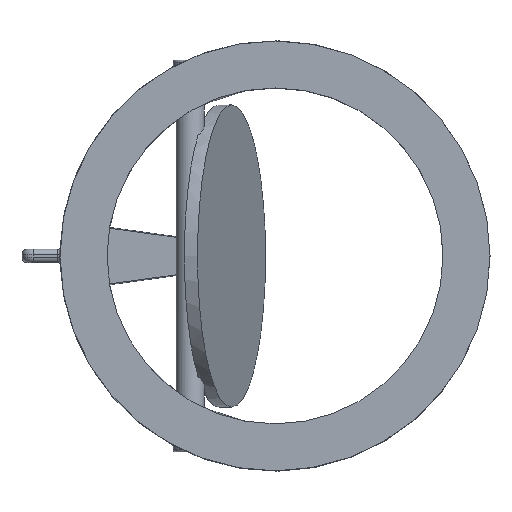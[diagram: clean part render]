
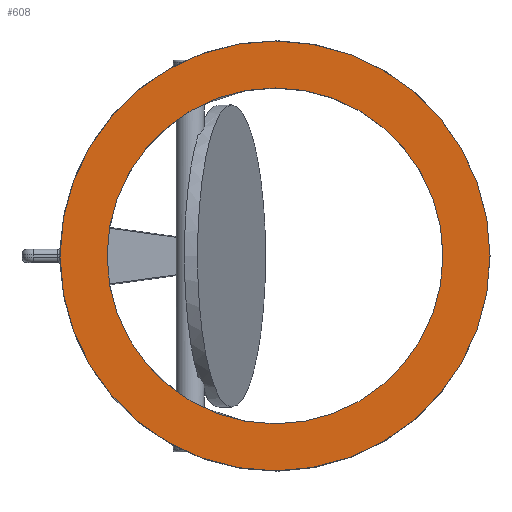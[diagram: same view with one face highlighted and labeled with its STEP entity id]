
A CAD part, top view. The second image highlights one B-rep face of the part: STEP entity #608.
In plain terms, the highlighted planar face has unit normal (0, 0, 1).
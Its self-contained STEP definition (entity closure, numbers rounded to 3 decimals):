
#608 = ADVANCED_FACE( '', ( #1339, #1340 ), #1341, .F. );
#1339 = FACE_OUTER_BOUND( '', #8625, .T. );
#1340 = FACE_BOUND( '', #8626, .T. );
#1341 = PLANE( '', #8627 );
#8625 = EDGE_LOOP( '', ( #14077, #14078 ) );
#8626 = EDGE_LOOP( '', ( #14079 ) );
#8627 = AXIS2_PLACEMENT_3D( '', #14080, #14081, #14082 );
#14077 = ORIENTED_EDGE( '', *, *, #15141, .F. );
#14078 = ORIENTED_EDGE( '', *, *, #15175, .F. );
#14079 = ORIENTED_EDGE( '', *, *, #14796, .F. );
#14080 = CARTESIAN_POINT( '', ( 0., 0., 57. ) );
#14081 = DIRECTION( '', ( 0., 0., -1. ) );
#14082 = DIRECTION( '', ( -1., 0., 0. ) );
#14796 = EDGE_CURVE( '', #15753, #15753, #15754, .T. );
#15141 = EDGE_CURVE( '', #16252, #16286, #16290, .T. );
#15175 = EDGE_CURVE( '', #16286, #16252, #16337, .T. );
#15753 = VERTEX_POINT( '', #18915 );
#15754 = CIRCLE( '', #18916, 150. );
#16252 = VERTEX_POINT( '', #22526 );
#16286 = VERTEX_POINT( '', #22677 );
#16290 = CIRCLE( '', #22681, 192. );
#16337 = CIRCLE( '', #22947, 192. );
#18915 = CARTESIAN_POINT( '', ( 0., -150., 57. ) );
#18916 = AXIS2_PLACEMENT_3D( '', #26115, #26116, #26117 );
#22526 = CARTESIAN_POINT( '', ( -191.997, -0.99, 57. ) );
#22677 = CARTESIAN_POINT( '', ( -191.997, 0.99, 57. ) );
#22681 = AXIS2_PLACEMENT_3D( '', #26253, #26254, #26255 );
#22947 = AXIS2_PLACEMENT_3D( '', #26261, #26262, #26263 );
#26115 = CARTESIAN_POINT( '', ( 0., 0., 57. ) );
#26116 = DIRECTION( '', ( 0., 0., 1. ) );
#26117 = DIRECTION( '', ( 0., -1., 0. ) );
#26253 = CARTESIAN_POINT( '', ( 0., 0., 57. ) );
#26254 = DIRECTION( '', ( 0., 0., -1. ) );
#26255 = DIRECTION( '', ( 1., 0., 0. ) );
#26261 = CARTESIAN_POINT( '', ( 0., 0., 57. ) );
#26262 = DIRECTION( '', ( 0., 0., -1. ) );
#26263 = DIRECTION( '', ( 1., 0., 0. ) );
